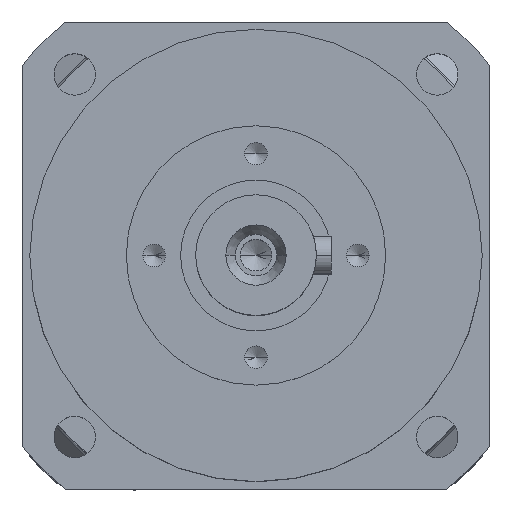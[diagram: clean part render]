
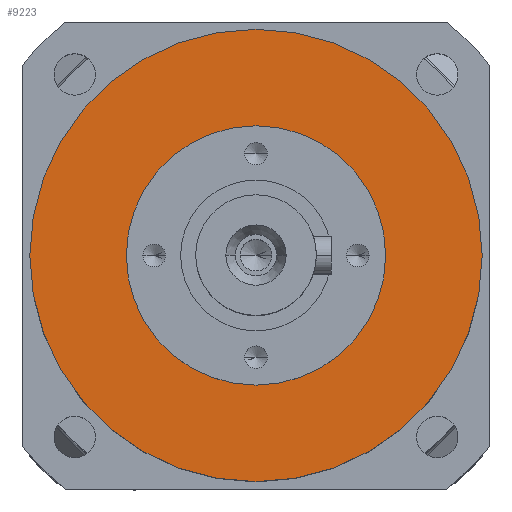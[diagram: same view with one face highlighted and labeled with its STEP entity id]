
A CAD part, top view. The second image highlights one B-rep face of the part: STEP entity #9223.
In plain terms, the highlighted planar face has unit normal (0, 0, 1).
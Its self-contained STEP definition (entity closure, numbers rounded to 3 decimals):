
#2879 = CARTESIAN_POINT ( 'NONE',  ( 0., 0., -30. ) ) ;
#2899 = DIRECTION ( 'NONE',  ( 1., 0., 0. ) ) ;
#2900 = DIRECTION ( 'NONE',  ( 0., 0., 1. ) ) ;
#2902 = CIRCLE ( 'NONE', #2904, 17.2 ) ;
#2904 = AXIS2_PLACEMENT_3D ( 'NONE', #2879, #2900, #2899 ) ;
#3269 = CIRCLE ( 'NONE', #3433, 30. ) ;
#3415 = DIRECTION ( 'NONE',  ( 0., 0., 1. ) ) ;
#3419 = CARTESIAN_POINT ( 'NONE',  ( 0., 0., -30. ) ) ;
#3432 = DIRECTION ( 'NONE',  ( 1., 0., 0. ) ) ;
#3433 = AXIS2_PLACEMENT_3D ( 'NONE', #3419, #3415, #3432 ) ;
#3636 = FACE_BOUND ( 'NONE', #9142, .T. ) ;
#3708 = FACE_OUTER_BOUND ( 'NONE', #9122, .T. ) ;
#3725 = CARTESIAN_POINT ( 'NONE',  ( 0., 17.2, -30. ) ) ;
#3740 = DIRECTION ( 'NONE',  ( -1., 0., 0. ) ) ;
#3741 = DIRECTION ( 'NONE',  ( 0., 0., -1. ) ) ;
#3757 = AXIS2_PLACEMENT_3D ( 'NONE', #3725, #3741, #3740 ) ;
#3813 = PLANE ( 'NONE',  #3757 ) ;
#4712 = DIRECTION ( 'NONE',  ( 1., 0., 0. ) ) ;
#4713 = DIRECTION ( 'NONE',  ( 0., 0., 1. ) ) ;
#4714 = CARTESIAN_POINT ( 'NONE',  ( 0., 0., -30. ) ) ;
#4715 = AXIS2_PLACEMENT_3D ( 'NONE', #4714, #4713, #4712 ) ;
#4728 = CIRCLE ( 'NONE', #4715, 30. ) ;
#4856 = CARTESIAN_POINT ( 'NONE',  ( 17.2, 0., -30. ) ) ;
#8719 = EDGE_CURVE ( 'NONE', #10705, #10561, #2902, .T. ) ;
#9079 = ORIENTED_EDGE ( 'NONE', *, *, #10625, .F. ) ;
#9122 = EDGE_LOOP ( 'NONE', ( #9191, #9227 ) ) ;
#9142 = EDGE_LOOP ( 'NONE', ( #9079, #9195 ) ) ;
#9191 = ORIENTED_EDGE ( 'NONE', *, *, #10459, .T. ) ;
#9195 = ORIENTED_EDGE ( 'NONE', *, *, #8719, .F. ) ;
#9196 = EDGE_CURVE ( 'NONE', #10568, #10578, #3269, .T. ) ;
#9223 = ADVANCED_FACE ( 'NONE', ( #3636, #3708 ), #3813, .F. ) ;
#9227 = ORIENTED_EDGE ( 'NONE', *, *, #9196, .T. ) ;
#10459 = EDGE_CURVE ( 'NONE', #10578, #10568, #4728, .T. ) ;
#10561 = VERTEX_POINT ( 'NONE', #4856 ) ;
#10568 = VERTEX_POINT ( 'NONE', #10922 ) ;
#10578 = VERTEX_POINT ( 'NONE', #10890 ) ;
#10625 = EDGE_CURVE ( 'NONE', #10561, #10705, #11492, .T. ) ;
#10705 = VERTEX_POINT ( 'NONE', #11586 ) ;
#10890 = CARTESIAN_POINT ( 'NONE',  ( 30., 0., -30. ) ) ;
#10922 = CARTESIAN_POINT ( 'NONE',  ( -30., 0., -30. ) ) ;
#11479 = DIRECTION ( 'NONE',  ( 1., 0., 0. ) ) ;
#11480 = DIRECTION ( 'NONE',  ( 0., 0., 1. ) ) ;
#11481 = AXIS2_PLACEMENT_3D ( 'NONE', #11489, #11480, #11479 ) ;
#11489 = CARTESIAN_POINT ( 'NONE',  ( 0., 0., -30. ) ) ;
#11492 = CIRCLE ( 'NONE', #11481, 17.2 ) ;
#11586 = CARTESIAN_POINT ( 'NONE',  ( -17.2, 0., -30. ) ) ;
